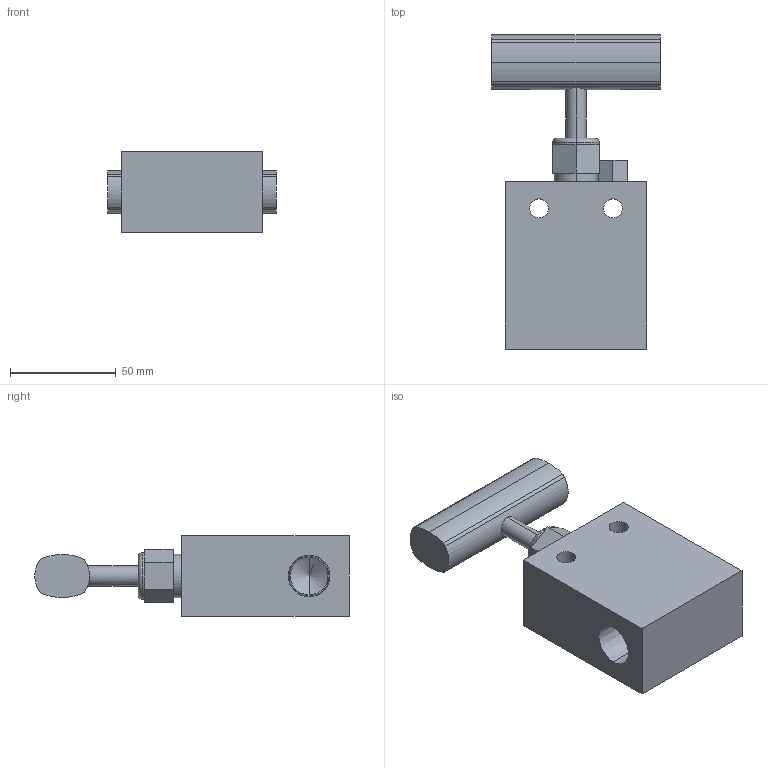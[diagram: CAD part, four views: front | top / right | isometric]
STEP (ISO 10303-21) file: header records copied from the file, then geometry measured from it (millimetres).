
FILE_DESCRIPTION (( 'STEP AP203' ), '1' );
FILE_NAME ('NVNRS08-S.STEP', '2021-01-15T04:38:33', ( '' ), ( '' ), 'SwSTEP 2.0', 'SolidWorks 2020', '' );
FILE_SCHEMA (( 'CONFIG_CONTROL_DESIGN' ));
Length unit declared in the file: millimetre
Products named in the file (1): NVNRS08-S
Bounding box: 80 x 148.95 x 38 mm (x, y, z)
Volume: 231384.4 mm3; surface area: 36045.1 mm2
Topology: 1 solids, 1 shells, 69 faces, 171 edges, 108 vertices
Faces by surface type: plane 32, cylinder 27, cone 8, torus 2
Entity records: 2294 total; most frequent: CARTESIAN_POINT 531, DIRECTION 367, ORIENTED_EDGE 334, EDGE_CURVE 167, AXIS2_PLACEMENT_3D 136, VERTEX_POINT 108, LINE 95, VECTOR 95
